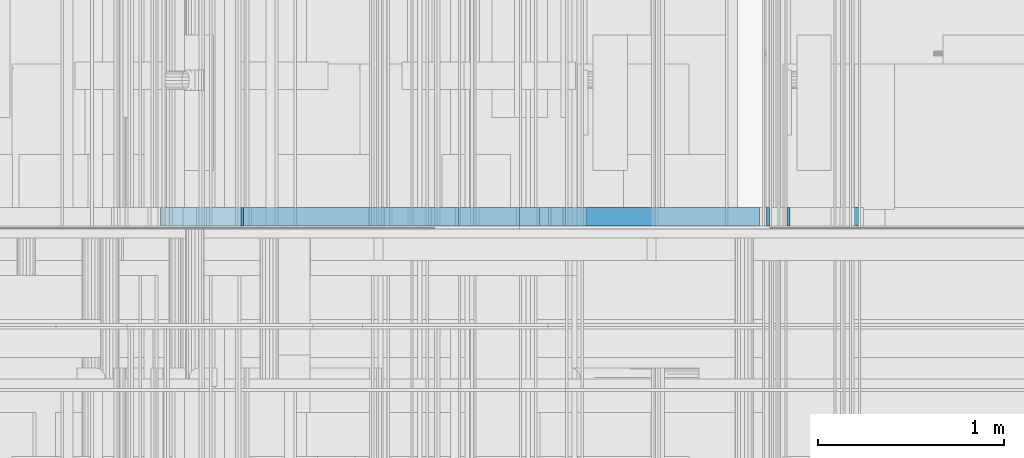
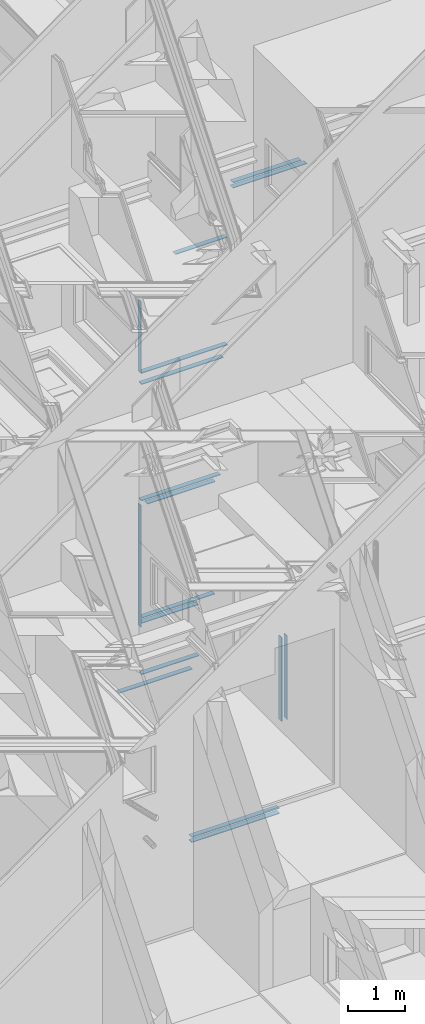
# One storey, part 117 of 583: 17 building element parts, 9 elements without a shape of their own.
"""IFC2X3 building model written with IfcOpenShell, lengths in metres."""

from ifc_helpers import new_model, entity, si_unit, converted_unit, derived_unit, money_unit, direction, frame, frame_2d, origin_with_axes, place, context, subcontext, project, spatial, polyline, rectangle, outline, extrude, material, type_object, element, aggregate, save


model = new_model("IFC2X3")

# Units and contexts
model_context = context("Model", 3, precision=1e-05, world=origin_with_axes(), true_north=direction((0.0, 1.0)))
body_context = subcontext(model_context, "Body", "Model", "MODEL_VIEW", scale=1.0)
ifc_project = project(units=[si_unit("LENGTHUNIT", "METRE"), si_unit("AREAUNIT", "SQUARE_METRE"), si_unit("VOLUMEUNIT", "CUBIC_METRE"), si_unit("ABSORBEDDOSEUNIT", "GRAY"), si_unit("AMOUNTOFSUBSTANCEUNIT", "MOLE"), si_unit("DOSEEQUIVALENTUNIT", "SIEVERT"), si_unit("ELECTRICCAPACITANCEUNIT", "FARAD"), si_unit("ELECTRICCHARGEUNIT", "COULOMB"), si_unit("ELECTRICCONDUCTANCEUNIT", "SIEMENS"), si_unit("ELECTRICCURRENTUNIT", "AMPERE"), si_unit("ELECTRICRESISTANCEUNIT", "OHM"), si_unit("ELECTRICVOLTAGEUNIT", "VOLT"), si_unit("ENERGYUNIT", "JOULE"), si_unit("FORCEUNIT", "NEWTON"), si_unit("FREQUENCYUNIT", "HERTZ"), si_unit("ILLUMINANCEUNIT", "LUX"), si_unit("INDUCTANCEUNIT", "HENRY"), si_unit("LUMINOUSFLUXUNIT", "LUMEN"), si_unit("LUMINOUSINTENSITYUNIT", "CANDELA"), si_unit("MAGNETICFLUXDENSITYUNIT", "TESLA"), si_unit("MAGNETICFLUXUNIT", "WEBER"), si_unit("MASSUNIT", "GRAM"), converted_unit("PLANEANGLEUNIT", "degree", entity("IfcReal", 0.0174532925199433), si_unit("PLANEANGLEUNIT", "RADIAN"), dimensions=[0, 0, 0, 0, 0, 0, 0]), si_unit("POWERUNIT", "WATT"), si_unit("PRESSUREUNIT", "PASCAL"), si_unit("RADIOACTIVITYUNIT", "BECQUEREL"), si_unit("SOLIDANGLEUNIT", "STERADIAN"), si_unit("THERMODYNAMICTEMPERATUREUNIT", "KELVIN"), si_unit("TIMEUNIT", "SECOND"), derived_unit("ACCELERATIONUNIT", [(si_unit("LENGTHUNIT", "METRE"), 1), (si_unit("TIMEUNIT", "SECOND"), -2)]), derived_unit("ANGULARVELOCITYUNIT", [(converted_unit("PLANEANGLEUNIT", "degree", entity("IfcReal", 0.0174532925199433), si_unit("PLANEANGLEUNIT", "RADIAN"), dimensions=[0, 0, 0, 0, 0, 0, 0]), 1), (si_unit("TIMEUNIT", "SECOND"), -1)]), derived_unit("CURVATUREUNIT", [(converted_unit("PLANEANGLEUNIT", "degree", entity("IfcReal", 0.0174532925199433), si_unit("PLANEANGLEUNIT", "RADIAN"), dimensions=[0, 0, 0, 0, 0, 0, 0]), 1), (si_unit("LENGTHUNIT", "METRE"), -1)]), derived_unit("DYNAMICVISCOSITYUNIT", [(si_unit("PRESSUREUNIT", "PASCAL"), 1), (si_unit("TIMEUNIT", "SECOND"), 1)]), derived_unit("HEATFLUXDENSITYUNIT", [(si_unit("POWERUNIT", "WATT"), 1), (si_unit("LENGTHUNIT", "METRE"), -2)]), derived_unit("HEATINGVALUEUNIT", [(si_unit("ENERGYUNIT", "JOULE"), 1), (si_unit("MASSUNIT", "GRAM"), -1)]), derived_unit("INTEGERCOUNTRATEUNIT", [(si_unit("TIMEUNIT", "SECOND"), -1)]), derived_unit("IONCONCENTRATIONUNIT", [(si_unit("MASSUNIT", "GRAM"), 1), (si_unit("VOLUMEUNIT", "CUBIC_METRE"), -1)]), derived_unit("ISOTHERMALMOISTURECAPACITYUNIT", [(si_unit("VOLUMEUNIT", "CUBIC_METRE"), 1), (si_unit("MASSUNIT", "GRAM"), -1)]), derived_unit("KINEMATICVISCOSITYUNIT", [(si_unit("AREAUNIT", "SQUARE_METRE"), 1), (si_unit("TIMEUNIT", "SECOND"), -1)]), derived_unit("LINEARFORCEUNIT", [(si_unit("FORCEUNIT", "NEWTON"), 1), (si_unit("LENGTHUNIT", "METRE"), -1)]), derived_unit("LINEARMOMENTUNIT", [(si_unit("FORCEUNIT", "NEWTON"), 1), (si_unit("LENGTHUNIT", "METRE"), -1)]), derived_unit("LINEARSTIFFNESSUNIT", [(si_unit("FORCEUNIT", "NEWTON"), 1), (si_unit("LENGTHUNIT", "METRE"), -1)]), derived_unit("LINEARVELOCITYUNIT", [(si_unit("LENGTHUNIT", "METRE"), 1), (si_unit("TIMEUNIT", "SECOND"), -1)]), derived_unit("LUMINOUSINTENSITYDISTRIBUTIONUNIT", [(si_unit("LUMINOUSINTENSITYUNIT", "CANDELA"), 1), (si_unit("LUMINOUSFLUXUNIT", "LUMEN"), -1)]), derived_unit("MASSDENSITYUNIT", [(si_unit("MASSUNIT", "GRAM"), 1), (si_unit("VOLUMEUNIT", "CUBIC_METRE"), -1)]), derived_unit("MASSFLOWRATEUNIT", [(si_unit("MASSUNIT", "GRAM"), 1), (si_unit("TIMEUNIT", "SECOND"), -1)]), derived_unit("MASSPERLENGTHUNIT", [(si_unit("MASSUNIT", "GRAM"), 1), (si_unit("LENGTHUNIT", "METRE"), -1)]), derived_unit("MODULUSOFELASTICITYUNIT", [(si_unit("FORCEUNIT", "NEWTON"), 1), (si_unit("AREAUNIT", "SQUARE_METRE"), -1)]), derived_unit("MODULUSOFLINEARSUBGRADEREACTIONUNIT", [(si_unit("FORCEUNIT", "NEWTON"), 1), (si_unit("LENGTHUNIT", "METRE"), -2)]), derived_unit("MODULUSOFROTATIONALSUBGRADEREACTIONUNIT", [(si_unit("FORCEUNIT", "NEWTON"), 1), (si_unit("LENGTHUNIT", "METRE"), 1)]), derived_unit("MODULUSOFSUBGRADEREACTIONUNIT", [(si_unit("FORCEUNIT", "NEWTON"), 1), (si_unit("VOLUMEUNIT", "CUBIC_METRE"), -1)]), derived_unit("MOISTUREDIFFUSIVITYUNIT", [(si_unit("VOLUMEUNIT", "CUBIC_METRE"), 1), (si_unit("TIMEUNIT", "SECOND"), -1)]), derived_unit("MOLECULARWEIGHTUNIT", [(si_unit("MASSUNIT", "GRAM"), 1), (si_unit("AMOUNTOFSUBSTANCEUNIT", "MOLE"), -1)]), derived_unit("PLANARFORCEUNIT", [(si_unit("FORCEUNIT", "NEWTON"), 1), (si_unit("LENGTHUNIT", "METRE"), -2)]), derived_unit("ROTATIONALFREQUENCYUNIT", [(si_unit("TIMEUNIT", "SECOND"), -1)]), derived_unit("ROTATIONALMASSUNIT", [(si_unit("MASSUNIT", "GRAM"), 1), (si_unit("LENGTHUNIT", "METRE"), 2)]), derived_unit("ROTATIONALSTIFFNESSUNIT", [(si_unit("FORCEUNIT", "NEWTON"), 1), (si_unit("LENGTHUNIT", "METRE"), 1), (converted_unit("PLANEANGLEUNIT", "degree", entity("IfcReal", 0.0174532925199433), si_unit("PLANEANGLEUNIT", "RADIAN"), dimensions=[0, 0, 0, 0, 0, 0, 0]), -1)]), derived_unit("SECTIONAREAINTEGRALUNIT", [(si_unit("LENGTHUNIT", "METRE"), 5)]), derived_unit("SECTIONMODULUSUNIT", [(si_unit("LENGTHUNIT", "METRE"), 3)]), derived_unit("SHEARMODULUSUNIT", [(si_unit("FORCEUNIT", "NEWTON"), 1), (si_unit("AREAUNIT", "SQUARE_METRE"), -1)]), derived_unit("SOUNDPOWERUNIT", [(si_unit("ENERGYUNIT", "JOULE"), 1), (si_unit("TIMEUNIT", "SECOND"), -1)]), derived_unit("SPECIFICHEATCAPACITYUNIT", [(si_unit("FORCEUNIT", "NEWTON"), 1), (si_unit("MASSUNIT", "GRAM"), -1), (si_unit("THERMODYNAMICTEMPERATUREUNIT", "KELVIN"), -1)]), derived_unit("TEMPERATUREGRADIENTUNIT", [(si_unit("THERMODYNAMICTEMPERATUREUNIT", "KELVIN"), 1), (si_unit("LENGTHUNIT", "METRE"), -1)]), derived_unit("THERMALADMITTANCEUNIT", [(si_unit("POWERUNIT", "WATT"), 1), (si_unit("AREAUNIT", "SQUARE_METRE"), -1), (si_unit("THERMODYNAMICTEMPERATUREUNIT", "KELVIN"), -1)]), derived_unit("THERMALCONDUCTANCEUNIT", [(si_unit("POWERUNIT", "WATT"), 1), (si_unit("LENGTHUNIT", "METRE"), -1), (si_unit("THERMODYNAMICTEMPERATUREUNIT", "KELVIN"), -1)]), derived_unit("THERMALEXPANSIONCOEFFICIENTUNIT", [(si_unit("THERMODYNAMICTEMPERATUREUNIT", "KELVIN"), -1)]), derived_unit("THERMALRESISTANCEUNIT", [(si_unit("AREAUNIT", "SQUARE_METRE"), 1), (si_unit("POWERUNIT", "WATT"), -1)]), derived_unit("THERMALTRANSMITTANCEUNIT", [(si_unit("POWERUNIT", "WATT"), 1), (si_unit("AREAUNIT", "SQUARE_METRE"), -1), (si_unit("THERMODYNAMICTEMPERATUREUNIT", "KELVIN"), -1)]), derived_unit("TORQUEUNIT", [(si_unit("FORCEUNIT", "NEWTON"), 1), (si_unit("LENGTHUNIT", "METRE"), 1)]), derived_unit("VAPORPERMEABILITYUNIT", [(si_unit("MASSUNIT", "GRAM"), 1), (si_unit("TIMEUNIT", "SECOND"), -1)]), derived_unit("VOLUMETRICFLOWRATEUNIT", [(si_unit("VOLUMEUNIT", "CUBIC_METRE"), 1), (si_unit("TIMEUNIT", "SECOND"), -1)]), derived_unit("WARPINGCONSTANTUNIT", [(si_unit("LENGTHUNIT", "METRE"), 6)]), derived_unit("WARPINGMOMENTUNIT", [(si_unit("FORCEUNIT", "NEWTON"), 1), (si_unit("LENGTHUNIT", "METRE"), 2)]), money_unit("GBP")], contexts=[model_context])

# Site, building, storey
site_placement = place(None, origin_with_axes())
site = spatial("IfcSite", under=ifc_project, at=site_placement, Name="Site", CompositionType="ELEMENT")
building_placement = place(site_placement, origin_with_axes())
building = spatial("IfcBuilding", under=site, at=building_placement, Name="Building01", CompositionType="ELEMENT")
storey_placement = place(building_placement, frame((0.0, 0.0, 20.78), z_axis=(0.0, 0.0, 1.0), x_axis=(1.0, 0.0, 0.0)))
storey = spatial("IfcBuildingStorey", under=building, at=storey_placement, Name="RL", CompositionType="ELEMENT", Elevation=20.78)

# Wall, building element parts
wall_type_1 = type_object("IfcWallType", Name="SHE_A-Walls_Type05a_Partition_95mm_tall", PredefinedType="NOTDEFINED")
wall_1_placement = place(storey_placement, frame((10.63, 12.13, -1.694716), z_axis=(0.0, 1.0, 0.0), x_axis=(1.0, 0.0, 0.0)))
wall_1 = element("IfcWall", 1, at=wall_1_placement, inside=storey, type_object=wall_type_1, Name="5A", ObjectType="SHE_A-Walls_Type05a_Partition_95mm_tall")
ifc_material = material(Name="A_BSUK_Walls_Timber")
placement_1 = place(wall_1_placement, origin_with_axes())
building_element_part_1 = element("IfcBuildingElementPart", 2, at=placement_1, material=ifc_material, Name="2", context=body_context, shape_type="SweptSolid", body=[
    extrude(outline(polyline([(1.544378, 0.075), (0.05, 0.075), (0.035, 0.06), (1.529378, 0.06), (1.544378, 0.075)])), frame((0.0, 0.0, 0.015), z_axis=(0.0, 0.0, 1.0), x_axis=(1.0, 0.0, 0.0)), (0.0, 0.0, 1.0), 0.1),
])
building_element_part_2 = element("IfcBuildingElementPart", 3, at=placement_1, material=ifc_material, Name="3", context=body_context, shape_type="SweptSolid", body=[
    extrude(outline(polyline([(1.434378, -0.035), (0.05, -0.035), (0.05, -0.05), (1.419378, -0.05), (1.434378, -0.035)])), frame((0.0, 0.0, 0.015), z_axis=(0.0, 0.0, 1.0), x_axis=(1.0, 0.0, 0.0)), (0.0, 0.0, 1.0), 0.1),
])
aggregate(wall_1, [building_element_part_1, building_element_part_2])

wall_2_placement = place(storey_placement, frame((10.38, 12.13, -7.851415), z_axis=(0.0, 1.0, 0.0), x_axis=(-1.0, 0.0, 0.0)))
wall_2 = element("IfcWall", 4, at=wall_2_placement, inside=storey, type_object=wall_type_1, Name="5A", ObjectType="SHE_A-Walls_Type05a_Partition_95mm_tall")
placement_2 = place(wall_2_placement, origin_with_axes())
building_element_part_3 = element("IfcBuildingElementPart", 5, at=placement_2, material=ifc_material, Name="2", context=body_context, shape_type="SweptSolid", body=[
    extrude(outline(polyline([(1.545, 0.075), (-0.05, 0.075), (-0.035, 0.06), (1.545, 0.06), (1.545, 0.075)])), frame((0.0, 0.0, 0.015), z_axis=(0.0, 0.0, 1.0), x_axis=(1.0, 0.0, 0.0)), (0.0, 0.0, 1.0), 0.1),
])
building_element_part_4 = element("IfcBuildingElementPart", 6, at=placement_2, material=ifc_material, Name="3", context=body_context, shape_type="SweptSolid", body=[
    extrude(outline(polyline([(1.426872, -0.035), (0.06, -0.035), (0.075, -0.05), (1.426872, -0.05), (1.426872, -0.035)])), frame((0.0, 0.0, 0.015), z_axis=(0.0, 0.0, 1.0), x_axis=(1.0, 0.0, 0.0)), (0.0, 0.0, 1.0), 0.1),
])
aggregate(wall_2, [building_element_part_3, building_element_part_4])

wall_type_2 = type_object("IfcWallType", Name="SHE_A-Walls_Type01c_Partywall_225mm_twin_tall", PredefinedType="NOTDEFINED")
wall_3_placement = place(storey_placement, frame((8.82, 12.13, -5.159868), z_axis=(0.0, 1.0, 0.0), x_axis=(1.0, 0.0, 0.0)))
wall_3 = element("IfcWall", 7, at=wall_3_placement, inside=storey, type_object=wall_type_2, Name="1C", ObjectType="SHE_A-Walls_Type01c_Partywall_225mm_twin_tall")
placement_3 = place(wall_3_placement, origin_with_axes())
building_element_part_5 = element("IfcBuildingElementPart", 8, at=placement_3, material=ifc_material, Name="2", context=body_context, shape_type="SweptSolid", body=[
    extrude(outline(polyline([(1.671912, 0.152), (0.015, 0.152), (0.015, 0.137), (1.656912, 0.137), (1.671912, 0.152)])), frame((0.0, 0.0, 0.015), z_axis=(0.0, 0.0, 1.0), x_axis=(1.0, 0.0, 0.0)), (0.0, 0.0, 1.0), 0.1),
])
building_element_part_6 = element("IfcBuildingElementPart", 9, at=placement_3, material=ifc_material, Name="7", context=body_context, shape_type="SweptSolid", body=[
    extrude(rectangle(XDim=1.75, YDim=0.015, at=frame_2d((0.875, -0.0955), x_axis=(-1.0, 0.0))), frame((0.0, 0.0, 0.015), z_axis=(0.0, 0.0, 1.0), x_axis=(1.0, 0.0, 0.0)), (0.0, 0.0, 1.0), 0.1),
])
aggregate(wall_3, [building_element_part_5, building_element_part_6])

wall_4_placement = place(storey_placement, frame((11.703124, 12.13, -11.69), z_axis=(0.0, 1.0, 0.0), x_axis=(0.0, 0.0, -1.0)))
wall_4 = element("IfcWall", 10, at=wall_4_placement, inside=storey, type_object=wall_type_1, Name="5A", ObjectType="SHE_A-Walls_Type05a_Partition_95mm_tall")
placement_4 = place(wall_4_placement, origin_with_axes())
building_element_part_7 = element("IfcBuildingElementPart", 11, at=placement_4, material=ifc_material, Name="2", context=body_context, shape_type="SweptSolid", body=[
    extrude(rectangle(XDim=1.785331, YDim=0.015, at=frame_2d((0.892666, 0.0425), x_axis=(-1.0, 0.0))), frame((0.0, 0.0, 0.015), z_axis=(0.0, 0.0, 1.0), x_axis=(1.0, 0.0, 0.0)), (0.0, 0.0, 1.0), 0.1),
])
building_element_part_8 = element("IfcBuildingElementPart", 12, at=placement_4, material=ifc_material, Name="3", context=body_context, shape_type="SweptSolid", body=[
    extrude(rectangle(XDim=1.785331, YDim=0.015, at=frame_2d((0.892666, -0.0675), x_axis=(-1.0, 0.0))), frame((0.0, 0.0, 0.015), z_axis=(0.0, 0.0, 1.0), x_axis=(1.0, 0.0, 0.0)), (0.0, 0.0, 1.0), 0.1),
])
aggregate(wall_4, [building_element_part_7, building_element_part_8])

# Wall, building element part
wall_5_placement = place(storey_placement, frame((9.585, 12.13, -2.84), z_axis=(0.0, 1.0, 0.0), x_axis=(1.0, 0.0, 0.0)))
wall_5 = element("IfcWall", 13, at=wall_5_placement, inside=storey, type_object=wall_type_1, Name="5A", ObjectType="SHE_A-Walls_Type05a_Partition_95mm_tall")
building_element_part_9_placement = place(wall_5_placement, origin_with_axes())
building_element_part_9 = element("IfcBuildingElementPart", 14, at=building_element_part_9_placement, material=ifc_material, Name="3", context=body_context, shape_type="SweptSolid", body=[
    extrude(outline(polyline([(0.97, -0.06), (-0.06, -0.06), (-0.075, -0.075), (0.97, -0.075), (0.97, -0.06)])), frame((0.0, 0.0, 0.015), z_axis=(0.0, 0.0, 1.0), x_axis=(1.0, 0.0, 0.0)), (0.0, 0.0, 1.0), 0.1),
])
aggregate(wall_5, [building_element_part_9])

# Wall, building element parts
wall_type_3 = type_object("IfcWallType", Name="SHE_A-Walls_Type03a_BlockworkWall_170mm", PredefinedType="NOTDEFINED")
wall_6_placement = place(storey_placement, frame((8.805, 12.13, -2.795), z_axis=(0.0, 1.0, 0.0), x_axis=(0.0, 0.0, -1.0)))
wall_6 = element("IfcWall", 15, at=wall_6_placement, inside=storey, type_object=wall_type_3, Name="4B", ObjectType="SHE_A-Walls_Type03a_BlockworkWall_170mm")
placement_5 = place(wall_6_placement, origin_with_axes())
building_element_part_10 = element("IfcBuildingElementPart", 16, at=placement_5, material=ifc_material, Name="11", context=body_context, shape_type="SweptSolid", body=[
    extrude(rectangle(XDim=2.589714, YDim=0.015, at=frame_2d((6.386272, -0.0225), x_axis=(-1.0, 0.0))), frame((0.0, 0.0, 0.015), z_axis=(0.0, 0.0, 1.0), x_axis=(1.0, 0.0, 0.0)), (0.0, 0.0, 1.0), 0.1),
])
building_element_part_11 = element("IfcBuildingElementPart", 17, at=placement_5, material=ifc_material, Name="12", context=body_context, shape_type="SweptSolid", body=[
    extrude(rectangle(XDim=1.515, YDim=0.015, at=frame_2d((1.504368, -0.0225), x_axis=(-1.0, 0.0))), frame((0.0, 0.0, 0.015), z_axis=(0.0, 0.0, 1.0), x_axis=(1.0, 0.0, 0.0)), (0.0, 0.0, 1.0), 0.1),
])
aggregate(wall_6, [building_element_part_10, building_element_part_11])

wall_7_placement = place(storey_placement, frame((8.82, 12.13, -11.633), z_axis=(0.0, 1.0, 0.0), x_axis=(1.0, 0.0, 0.0)))
wall_7 = element("IfcWall", 18, at=wall_7_placement, inside=storey, type_object=wall_type_2, Name="1C", ObjectType="SHE_A-Walls_Type01c_Partywall_225mm_twin_tall")
placement_6 = place(wall_7_placement, origin_with_axes())
building_element_part_12 = element("IfcBuildingElementPart", 19, at=placement_6, material=ifc_material, Name="2", context=body_context, shape_type="SweptSolid", body=[
    extrude(outline(polyline([(1.027704, 0.102), (-0.432595, 0.102), (-0.432595, 0.087), (1.042704, 0.087), (1.027704, 0.102)])), frame((0.0, 0.0, 0.015), z_axis=(0.0, 0.0, 1.0), x_axis=(1.0, 0.0, 0.0)), (0.0, 0.0, 1.0), 0.1),
])
building_element_part_13 = element("IfcBuildingElementPart", 20, at=placement_6, material=ifc_material, Name="7", context=body_context, shape_type="SweptSolid", body=[
    extrude(rectangle(XDim=1.157704, YDim=0.015, at=frame_2d((0.593852, -0.1455), x_axis=(-1.0, 0.0))), frame((0.0, 0.0, 0.015), z_axis=(0.0, 0.0, 1.0), x_axis=(1.0, 0.0, 0.0)), (0.0, 0.0, 1.0), 0.1),
])
aggregate(wall_7, [building_element_part_12, building_element_part_13])

wall_8_placement = place(storey_placement, frame((9.79567, 12.13, -15.350331), z_axis=(0.0, 1.0, 0.0), x_axis=(1.0, 0.0, 0.0)))
wall_8 = element("IfcWall", 21, at=wall_8_placement, inside=storey, type_object=wall_type_1, Name="5A", ObjectType="SHE_A-Walls_Type05a_Partition_95mm_tall")
placement_7 = place(wall_8_placement, origin_with_axes())
building_element_part_14 = element("IfcBuildingElementPart", 22, at=placement_7, material=ifc_material, Name="2", context=body_context, shape_type="SweptSolid", body=[
    extrude(rectangle(XDim=1.77, YDim=0.015, at=frame_2d((0.935, 0.0675), x_axis=(-1.0, 0.0))), frame((0.0, 0.0, 0.015), z_axis=(0.0, 0.0, 1.0), x_axis=(1.0, 0.0, 0.0)), (0.0, 0.0, 1.0), 0.1),
])
building_element_part_15 = element("IfcBuildingElementPart", 23, at=placement_7, material=ifc_material, Name="3", context=body_context, shape_type="SweptSolid", body=[
    extrude(rectangle(XDim=1.77, YDim=0.015, at=frame_2d((0.935, -0.0425), x_axis=(-1.0, 0.0))), frame((0.0, 0.0, 0.015), z_axis=(0.0, 0.0, 1.0), x_axis=(1.0, 0.0, 0.0)), (0.0, 0.0, 1.0), 0.1),
])
aggregate(wall_8, [building_element_part_14, building_element_part_15])

wall_9_placement = place(storey_placement, frame((8.82, 12.13, -10.326129), z_axis=(0.0, 1.0, 0.0), x_axis=(1.0, 0.0, 0.0)))
wall_9 = element("IfcWall", 24, at=wall_9_placement, inside=storey, type_object=wall_type_1, Name="5A", ObjectType="SHE_A-Walls_Type05a_Partition_95mm_tall")
placement_8 = place(wall_9_placement, origin_with_axes())
building_element_part_16 = element("IfcBuildingElementPart", 25, at=placement_8, material=ifc_material, Name="2", context=body_context, shape_type="SweptSolid", body=[
    extrude(rectangle(XDim=1.142704, YDim=0.015, at=frame_2d((0.586352, 0.0675), x_axis=(-1.0, 0.0))), frame((0.0, 0.0, 0.015), z_axis=(0.0, 0.0, 1.0), x_axis=(1.0, 0.0, 0.0)), (0.0, 0.0, 1.0), 0.1),
])
building_element_part_17 = element("IfcBuildingElementPart", 26, at=placement_8, material=ifc_material, Name="3", context=body_context, shape_type="SweptSolid", body=[
    extrude(outline(polyline([(1.5, -0.035), (0.0, -0.035), (0.0, -0.05), (1.485, -0.05), (1.5, -0.035)])), frame((0.0, 0.0, 0.015), z_axis=(0.0, 0.0, 1.0), x_axis=(1.0, 0.0, 0.0)), (0.0, 0.0, 1.0), 0.1),
])
aggregate(wall_9, [building_element_part_16, building_element_part_17])

save(model, "model.ifc")
